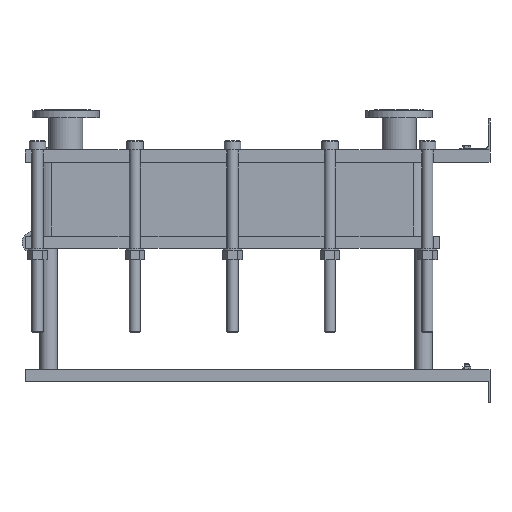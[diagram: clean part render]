
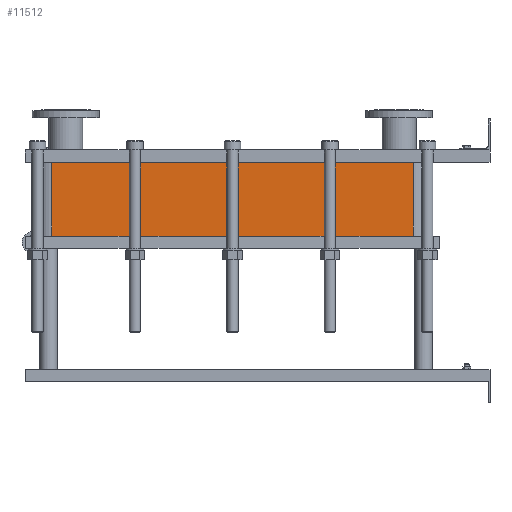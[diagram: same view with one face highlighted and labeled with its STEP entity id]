
A CAD part, left-side view. The second image highlights one B-rep face of the part: STEP entity #11512.
In plain terms, the highlighted planar face has unit normal (-1, 0, 0).
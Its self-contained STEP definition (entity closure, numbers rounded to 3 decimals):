
#1129=LINE('',#23232,#2102);
#1130=LINE('',#23236,#2103);
#1131=LINE('',#23238,#2104);
#1132=LINE('',#23239,#2105);
#2102=VECTOR('',#15887,10.);
#2103=VECTOR('',#15892,10.);
#2104=VECTOR('',#15893,10.);
#2105=VECTOR('',#15894,10.);
#3267=FACE_OUTER_BOUND('',#4093,.T.);
#4093=EDGE_LOOP('',(#10103,#10104,#10105,#10106));
#5642=VERTEX_POINT('',#23229);
#5643=VERTEX_POINT('',#23231);
#5644=VERTEX_POINT('',#23235);
#5645=VERTEX_POINT('',#23237);
#7159=EDGE_CURVE('',#5643,#5642,#1129,.T.);
#7161=EDGE_CURVE('',#5642,#5644,#1130,.T.);
#7162=EDGE_CURVE('',#5645,#5644,#1131,.T.);
#7163=EDGE_CURVE('',#5645,#5643,#1132,.T.);
#10103=ORIENTED_EDGE('',*,*,#7161,.T.);
#10104=ORIENTED_EDGE('',*,*,#7162,.F.);
#10105=ORIENTED_EDGE('',*,*,#7163,.T.);
#10106=ORIENTED_EDGE('',*,*,#7159,.T.);
#10857=PLANE('',#12751);
#11512=ADVANCED_FACE('',(#3267),#10857,.T.);
#12751=AXIS2_PLACEMENT_3D('',#23234,#15890,#15891);
#15887=DIRECTION('',(0.,0.,-1.));
#15890=DIRECTION('center_axis',(-1.,0.,0.));
#15891=DIRECTION('ref_axis',(0.,1.,0.));
#15892=DIRECTION('',(0.,-1.,0.));
#15893=DIRECTION('',(0.,0.,-1.));
#15894=DIRECTION('',(0.,1.,0.));
#23229=CARTESIAN_POINT('',(-200.,1414.,-238.05));
#23231=CARTESIAN_POINT('',(-200.,1414.,0.));
#23232=CARTESIAN_POINT('',(-200.,1414.,0.));
#23234=CARTESIAN_POINT('Origin',(-200.,248.,0.));
#23235=CARTESIAN_POINT('',(-200.,248.,-238.05));
#23236=CARTESIAN_POINT('',(-200.,539.5,-238.05));
#23237=CARTESIAN_POINT('',(-200.,248.,0.));
#23238=CARTESIAN_POINT('',(-200.,248.,0.));
#23239=CARTESIAN_POINT('',(-200.,248.,0.));
